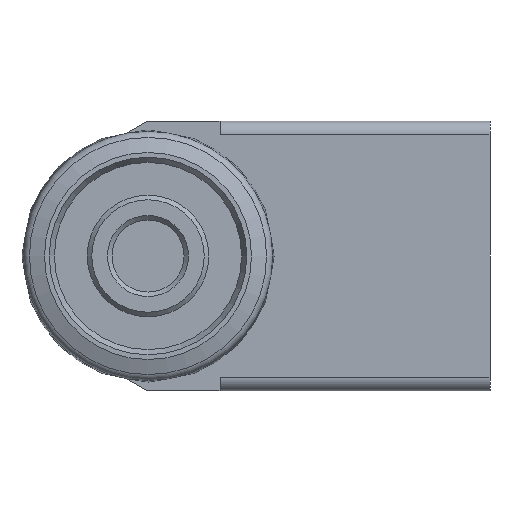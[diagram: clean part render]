
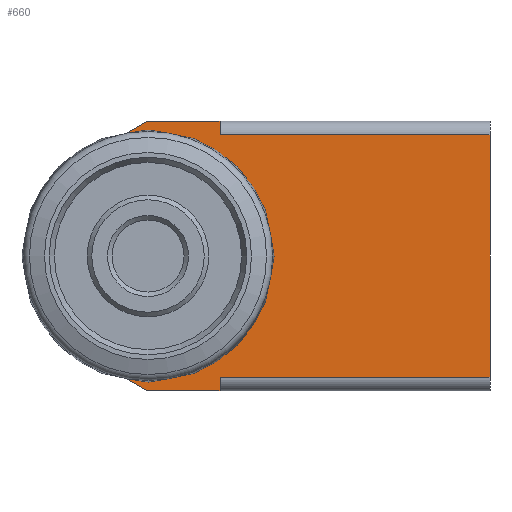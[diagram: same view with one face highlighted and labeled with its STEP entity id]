
A CAD part, left-side view. The second image highlights one B-rep face of the part: STEP entity #660.
In plain terms, the highlighted planar face has unit normal (-1, 0, 0) as drawn and (0, 0, 1) by its records, which use the part's own axes.
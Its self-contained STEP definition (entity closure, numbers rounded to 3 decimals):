
#41=LINE('',#1067,#73);
#44=LINE('',#1074,#76);
#50=LINE('',#1096,#82);
#51=LINE('',#1099,#83);
#55=LINE('',#1106,#87);
#58=LINE('',#1111,#90);
#61=LINE('',#1117,#93);
#62=LINE('',#1120,#94);
#63=LINE('',#1121,#95);
#73=VECTOR('',#851,30.);
#76=VECTOR('',#858,1.5);
#82=VECTOR('',#878,30.);
#83=VECTOR('',#881,1.5);
#87=VECTOR('',#887,8.019);
#90=VECTOR('',#892,8.019);
#93=VECTOR('',#897,5.751);
#94=VECTOR('',#900,5.751);
#95=VECTOR('',#901,27.);
#137=PLANE('',#731);
#160=FACE_BOUND('',#257,.T.);
#201=FACE_OUTER_BOUND('',#256,.T.);
#256=EDGE_LOOP('',(#542,#543,#544,#545,#546,#547,#548,#549,#550,#551));
#257=EDGE_LOOP('',(#552));
#319=CIRCLE('',#732,14.);
#320=CIRCLE('',#733,4.05);
#358=VERTEX_POINT('',#1063);
#360=VERTEX_POINT('',#1066);
#362=VERTEX_POINT('',#1072);
#369=VERTEX_POINT('',#1090);
#371=VERTEX_POINT('',#1094);
#372=VERTEX_POINT('',#1098);
#374=VERTEX_POINT('',#1104);
#375=VERTEX_POINT('',#1110);
#377=VERTEX_POINT('',#1116);
#378=VERTEX_POINT('',#1118);
#379=VERTEX_POINT('',#1122);
#420=EDGE_CURVE('',#358,#360,#41,.T.);
#424=EDGE_CURVE('',#358,#362,#44,.T.);
#434=EDGE_CURVE('',#369,#371,#50,.T.);
#435=EDGE_CURVE('',#372,#369,#51,.T.);
#439=EDGE_CURVE('',#374,#362,#55,.T.);
#442=EDGE_CURVE('',#372,#375,#58,.T.);
#445=EDGE_CURVE('',#377,#374,#61,.T.);
#446=EDGE_CURVE('',#378,#377,#319,.T.);
#447=EDGE_CURVE('',#375,#378,#62,.T.);
#448=EDGE_CURVE('',#360,#371,#63,.T.);
#449=EDGE_CURVE('',#379,#379,#320,.T.);
#542=ORIENTED_EDGE('',*,*,#420,.F.);
#543=ORIENTED_EDGE('',*,*,#424,.T.);
#544=ORIENTED_EDGE('',*,*,#439,.F.);
#545=ORIENTED_EDGE('',*,*,#445,.F.);
#546=ORIENTED_EDGE('',*,*,#446,.F.);
#547=ORIENTED_EDGE('',*,*,#447,.F.);
#548=ORIENTED_EDGE('',*,*,#442,.F.);
#549=ORIENTED_EDGE('',*,*,#435,.T.);
#550=ORIENTED_EDGE('',*,*,#434,.T.);
#551=ORIENTED_EDGE('',*,*,#448,.F.);
#552=ORIENTED_EDGE('',*,*,#449,.T.);
#660=ADVANCED_FACE('',(#201,#160),#137,.T.);
#731=AXIS2_PLACEMENT_3D('',#1115,#895,#896);
#732=AXIS2_PLACEMENT_3D('',#1119,#898,#899);
#733=AXIS2_PLACEMENT_3D('',#1123,#902,#903);
#851=DIRECTION('',(0.,-1.,0.));
#858=DIRECTION('',(1.,0.,0.));
#878=DIRECTION('',(0.,-1.,0.));
#881=DIRECTION('',(1.,0.,0.));
#887=DIRECTION('',(0.,-1.,0.));
#892=DIRECTION('',(0.,1.,0.));
#895=DIRECTION('center_axis',(0.,0.,1.));
#896=DIRECTION('ref_axis',(1.,0.,0.));
#897=DIRECTION('',(0.5,-0.866,0.));
#898=DIRECTION('center_axis',(0.,0.,-1.));
#899=DIRECTION('ref_axis',(-0.866,-0.5,0.));
#900=DIRECTION('',(0.5,0.866,0.));
#901=DIRECTION('',(-1.,0.,0.));
#902=DIRECTION('center_axis',(0.,0.,-1.));
#903=DIRECTION('ref_axis',(1.,0.,0.));
#1063=CARTESIAN_POINT('',(13.5,-8.,6.));
#1066=CARTESIAN_POINT('',(13.5,-38.,6.));
#1067=CARTESIAN_POINT('',(13.5,-38.,6.));
#1072=CARTESIAN_POINT('',(15.,-8.,6.));
#1074=CARTESIAN_POINT('',(7.271,-8.,6.));
#1090=CARTESIAN_POINT('',(-13.5,-8.,6.));
#1094=CARTESIAN_POINT('',(-13.5,-38.,6.));
#1096=CARTESIAN_POINT('',(-13.5,-38.,6.));
#1098=CARTESIAN_POINT('',(-15.,-8.,6.));
#1099=CARTESIAN_POINT('',(-7.271,-8.,6.));
#1104=CARTESIAN_POINT('',(15.,0.019,6.));
#1106=CARTESIAN_POINT('',(15.,0.019,6.));
#1110=CARTESIAN_POINT('',(-15.,0.019,6.));
#1111=CARTESIAN_POINT('',(-15.,-38.,6.));
#1115=CARTESIAN_POINT('Origin',(0.,-15.577,
6.));
#1116=CARTESIAN_POINT('',(12.124,5.,6.));
#1117=CARTESIAN_POINT('',(12.124,5.,6.));
#1118=CARTESIAN_POINT('',(-12.124,5.,6.));
#1119=CARTESIAN_POINT('Origin',(0.,-2.,6.));
#1120=CARTESIAN_POINT('',(-15.,0.019,6.));
#1121=CARTESIAN_POINT('',(15.,-38.,6.));
#1122=CARTESIAN_POINT('',(4.05,0.,6.));
#1123=CARTESIAN_POINT('Origin',(0.,0.,6.));
